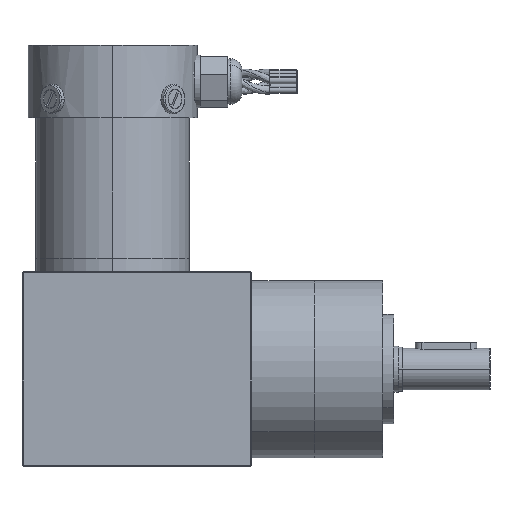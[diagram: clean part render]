
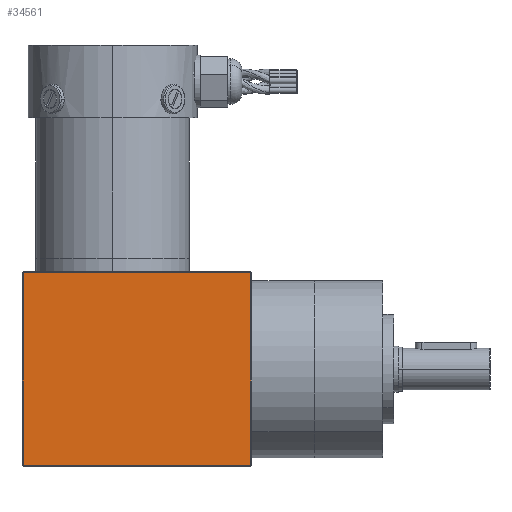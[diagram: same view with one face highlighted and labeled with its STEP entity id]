
A CAD part, top view. The second image highlights one B-rep face of the part: STEP entity #34561.
In plain terms, the highlighted planar face has unit normal (0, 0, 1).
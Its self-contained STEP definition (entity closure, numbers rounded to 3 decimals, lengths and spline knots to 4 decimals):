
#2943 = CARTESIAN_POINT ( 'NONE',  ( 3.7244, 0.3622, 4.3302 ) ) ;
#3281 = ORIENTED_EDGE ( 'NONE', *, *, #14511, .T. ) ;
#3937 = LINE ( 'NONE', #39135, #26916 ) ;
#4728 = FACE_OUTER_BOUND ( 'NONE', #16589, .T. ) ;
#5894 = EDGE_CURVE ( 'NONE', #8220, #15420, #16555, .T. ) ;
#8220 = VERTEX_POINT ( 'NONE', #57226 ) ;
#8845 = CARTESIAN_POINT ( 'NONE',  ( 3.7244, 3.8222, 4.3302 ) ) ;
#9715 = DIRECTION ( 'NONE',  ( -1., 0., 0. ) ) ;
#10014 = LINE ( 'NONE', #33093, #56392 ) ;
#10710 = EDGE_CURVE ( 'NONE', #15420, #53132, #3937, .T. ) ;
#11134 = CARTESIAN_POINT ( 'NONE',  ( 7.8094, 0.3622, 4.3302 ) ) ;
#11650 = EDGE_CURVE ( 'NONE', #53132, #29244, #45520, .T. ) ;
#12995 = ORIENTED_EDGE ( 'NONE', *, *, #10710, .T. ) ;
#14511 = EDGE_CURVE ( 'NONE', #29244, #8220, #10014, .T. ) ;
#15026 = VECTOR ( 'NONE', #21858, 39.3701 ) ;
#15420 = VERTEX_POINT ( 'NONE', #8845 ) ;
#15491 = DIRECTION ( 'NONE',  ( 0., 1., 0. ) ) ;
#16045 = AXIS2_PLACEMENT_3D ( 'NONE', #44971, #49436, #40499 ) ;
#16555 = LINE ( 'NONE', #36192, #26964 ) ;
#16589 = EDGE_LOOP ( 'NONE', ( #24144, #3281, #28699, #12995 ) ) ;
#21743 = DIRECTION ( 'NONE',  ( 0., -1., 0. ) ) ;
#21858 = DIRECTION ( 'NONE',  ( 1., 0., 0. ) ) ;
#24144 = ORIENTED_EDGE ( 'NONE', *, *, #11650, .T. ) ;
#26916 = VECTOR ( 'NONE', #21743, 39.3701 ) ;
#26964 = VECTOR ( 'NONE', #9715, 39.3701 ) ;
#28699 = ORIENTED_EDGE ( 'NONE', *, *, #5894, .T. ) ;
#29244 = VERTEX_POINT ( 'NONE', #11134 ) ;
#31563 = PLANE ( 'NONE',  #16045 ) ;
#33093 = CARTESIAN_POINT ( 'NONE',  ( 7.8094, 3.8422, 4.3302 ) ) ;
#34561 = ADVANCED_FACE ( 'NONE', ( #4728 ), #31563, .T. ) ;
#36192 = CARTESIAN_POINT ( 'NONE',  ( 3.7044, 3.8222, 4.3302 ) ) ;
#39135 = CARTESIAN_POINT ( 'NONE',  ( 3.7244, 0.3422, 4.3302 ) ) ;
#40499 = DIRECTION ( 'NONE',  ( 1., 0., 0. ) ) ;
#44971 = CARTESIAN_POINT ( 'NONE',  ( 5.7669, 2.0922, 4.3302 ) ) ;
#45520 = LINE ( 'NONE', #52638, #15026 ) ;
#49436 = DIRECTION ( 'NONE',  ( 0., 0., 1. ) ) ;
#52638 = CARTESIAN_POINT ( 'NONE',  ( 7.8294, 0.3622, 4.3302 ) ) ;
#53132 = VERTEX_POINT ( 'NONE', #2943 ) ;
#56392 = VECTOR ( 'NONE', #15491, 39.3701 ) ;
#57226 = CARTESIAN_POINT ( 'NONE',  ( 7.8094, 3.8222, 4.3302 ) ) ;
